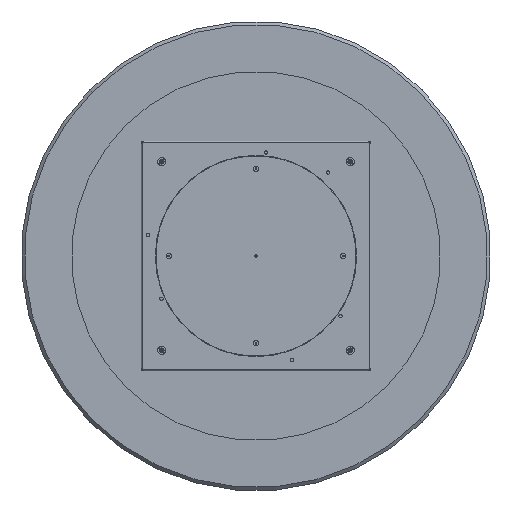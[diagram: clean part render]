
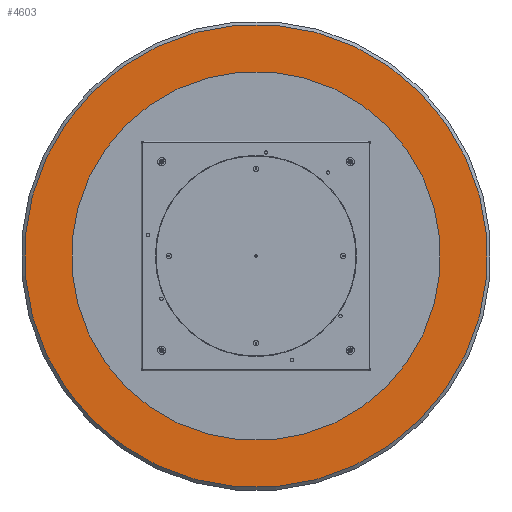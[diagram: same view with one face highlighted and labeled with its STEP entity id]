
A CAD part, front view. The second image highlights one B-rep face of the part: STEP entity #4603.
In plain terms, the highlighted planar face has unit normal (0, -1, 0).
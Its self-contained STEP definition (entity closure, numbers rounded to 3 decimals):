
#558 = ORIENTED_EDGE ( 'NONE', *, *, #13234, .F. ) ;
#819 = EDGE_CURVE ( 'NONE', #7778, #9612, #14562, .T. ) ;
#1103 = ORIENTED_EDGE ( 'NONE', *, *, #4397, .T. ) ;
#1268 = ORIENTED_EDGE ( 'NONE', *, *, #12279, .T. ) ;
#1547 = DIRECTION ( 'NONE',  ( 0., 0., -1. ) ) ;
#2280 = DIRECTION ( 'NONE',  ( 0., -1., 0. ) ) ;
#2408 = CIRCLE ( 'NONE', #2935, 690. ) ;
#2713 = CARTESIAN_POINT ( 'NONE',  ( 0., 0., 0. ) ) ;
#2929 = FACE_OUTER_BOUND ( 'NONE', #14041, .T. ) ;
#2935 = AXIS2_PLACEMENT_3D ( 'NONE', #9861, #7346, #8398 ) ;
#3293 = DIRECTION ( 'NONE',  ( 0., -1., 0. ) ) ;
#3648 = CIRCLE ( 'NONE', #12798, 690. ) ;
#4397 = EDGE_CURVE ( 'NONE', #9810, #12063, #2408, .T. ) ;
#4603 = ADVANCED_FACE ( 'NONE', ( #12664, #2929 ), #10269, .T. ) ;
#5460 = CIRCLE ( 'NONE', #9615, 3.3 ) ;
#7062 = ORIENTED_EDGE ( 'NONE', *, *, #819, .F. ) ;
#7346 = DIRECTION ( 'NONE',  ( 0., -1., 0. ) ) ;
#7525 = EDGE_LOOP ( 'NONE', ( #558, #7062 ) ) ;
#7586 = DIRECTION ( 'NONE',  ( 0., 0., -1. ) ) ;
#7778 = VERTEX_POINT ( 'NONE', #9983 ) ;
#8398 = DIRECTION ( 'NONE',  ( 0., 0., -1. ) ) ;
#8578 = CARTESIAN_POINT ( 'NONE',  ( 0., 0., -3.3 ) ) ;
#9612 = VERTEX_POINT ( 'NONE', #8578 ) ;
#9615 = AXIS2_PLACEMENT_3D ( 'NONE', #2713, #12849, #1547 ) ;
#9810 = VERTEX_POINT ( 'NONE', #12769 ) ;
#9861 = CARTESIAN_POINT ( 'NONE',  ( 0., 0., 0. ) ) ;
#9983 = CARTESIAN_POINT ( 'NONE',  ( 0., 0., 3.3 ) ) ;
#10269 = PLANE ( 'NONE',  #11794 ) ;
#11794 = AXIS2_PLACEMENT_3D ( 'NONE', #12742, #13821, #7586 ) ;
#12063 = VERTEX_POINT ( 'NONE', #14493 ) ;
#12259 = DIRECTION ( 'NONE',  ( 0., 0., -1. ) ) ;
#12279 = EDGE_CURVE ( 'NONE', #12063, #9810, #3648, .T. ) ;
#12664 = FACE_BOUND ( 'NONE', #7525, .T. ) ;
#12742 = CARTESIAN_POINT ( 'NONE',  ( 0., 0., 0. ) ) ;
#12769 = CARTESIAN_POINT ( 'NONE',  ( 0., 0., 690. ) ) ;
#12798 = AXIS2_PLACEMENT_3D ( 'NONE', #16124, #2280, #12259 ) ;
#12849 = DIRECTION ( 'NONE',  ( 0., -1., 0. ) ) ;
#13234 = EDGE_CURVE ( 'NONE', #9612, #7778, #5460, .T. ) ;
#13507 = AXIS2_PLACEMENT_3D ( 'NONE', #15908, #3293, #14758 ) ;
#13821 = DIRECTION ( 'NONE',  ( 0., -1., 0. ) ) ;
#14041 = EDGE_LOOP ( 'NONE', ( #1103, #1268 ) ) ;
#14493 = CARTESIAN_POINT ( 'NONE',  ( 0., 0., -690. ) ) ;
#14562 = CIRCLE ( 'NONE', #13507, 3.3 ) ;
#14758 = DIRECTION ( 'NONE',  ( 0., 0., -1. ) ) ;
#15908 = CARTESIAN_POINT ( 'NONE',  ( 0., 0., 0. ) ) ;
#16124 = CARTESIAN_POINT ( 'NONE',  ( 0., 0., 0. ) ) ;
